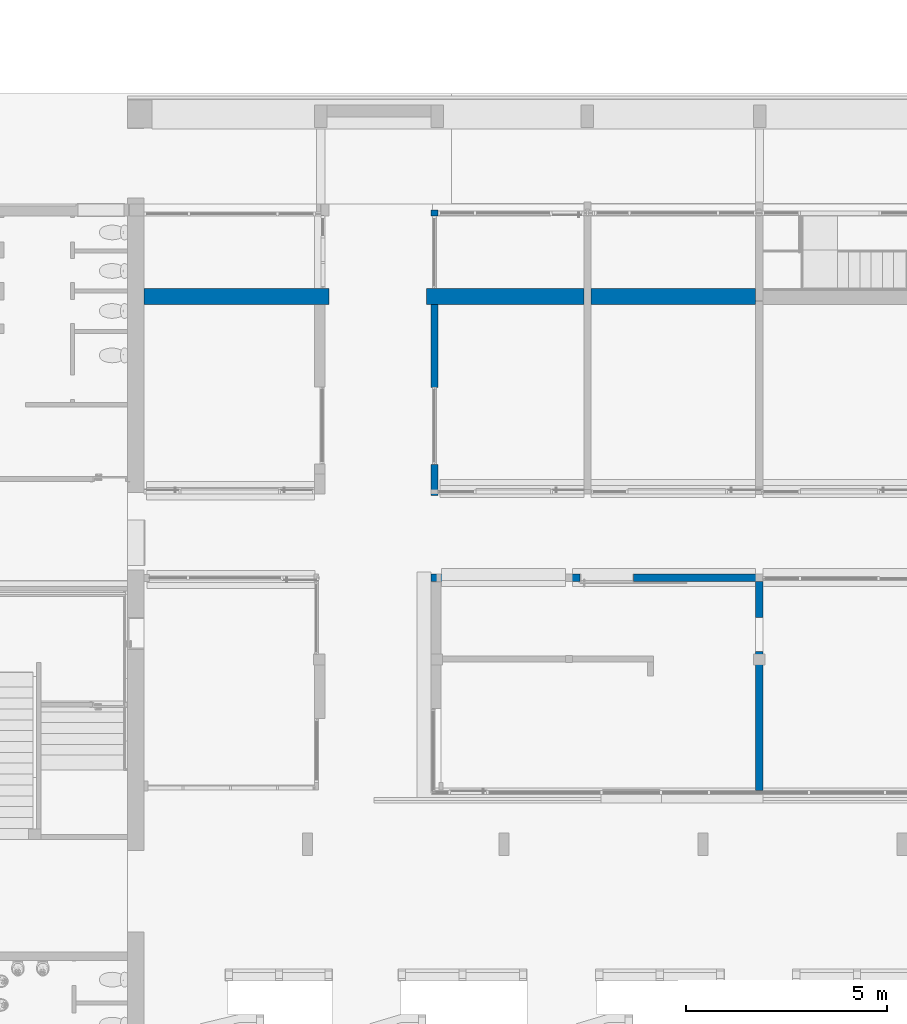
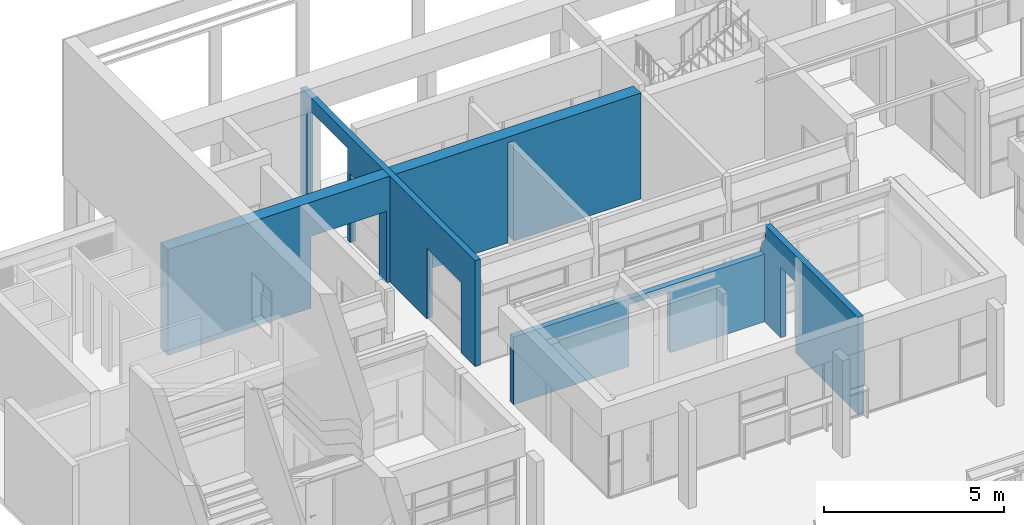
# One storey, part 86 of 117: 4 walls, 8 openings.
"""IFC4 building model written with IfcOpenShell, lengths in metres."""

from ifc_helpers import new_model, entity, si_unit, converted_unit, derived_unit, direction, frame, origin, place, context, subcontext, project, spatial, indexed_curve, outline, extrude, polygons, material, type_object, element, save


model = new_model("IFC4")

# Units and contexts
model_context = context("Model", 3, precision=1e-05, world=origin(), true_north=direction((6.123031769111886e-17, 1.0)))
body_context = subcontext(model_context, "Body", "Model", "MODEL_VIEW")
ifc_project = project(units=[si_unit("LENGTHUNIT", "METRE"), si_unit("AREAUNIT", "SQUARE_METRE"), si_unit("VOLUMEUNIT", "CUBIC_METRE"), converted_unit("PLANEANGLEUNIT", "DEGREE", entity("IfcRatioMeasure", 0.017453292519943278), si_unit("PLANEANGLEUNIT", "RADIAN"), dimensions=[0, 0, 0, 0, 0, 0, 0]), si_unit("MASSUNIT", "GRAM", prefix="KILO"), derived_unit("MASSDENSITYUNIT", [(si_unit("MASSUNIT", "GRAM", prefix="KILO"), 1), (si_unit("LENGTHUNIT", "METRE"), -3)]), derived_unit("MOMENTOFINERTIAUNIT", [(si_unit("LENGTHUNIT", "METRE"), 4)]), si_unit("TIMEUNIT", "SECOND"), si_unit("FREQUENCYUNIT", "HERTZ"), si_unit("THERMODYNAMICTEMPERATUREUNIT", "DEGREE_CELSIUS"), derived_unit("THERMALTRANSMITTANCEUNIT", [(si_unit("MASSUNIT", "GRAM", prefix="KILO"), 1), (si_unit("THERMODYNAMICTEMPERATUREUNIT", "KELVIN"), -1), (si_unit("TIMEUNIT", "SECOND"), -3)]), derived_unit("VOLUMETRICFLOWRATEUNIT", [(si_unit("LENGTHUNIT", "METRE"), 3), (si_unit("TIMEUNIT", "SECOND"), -1)]), derived_unit("MASSFLOWRATEUNIT", [(si_unit("MASSUNIT", "GRAM", prefix="KILO"), 1), (si_unit("TIMEUNIT", "SECOND"), -1)]), derived_unit("ROTATIONALFREQUENCYUNIT", [(si_unit("TIMEUNIT", "SECOND"), -1)]), si_unit("ELECTRICCURRENTUNIT", "AMPERE"), si_unit("ELECTRICVOLTAGEUNIT", "VOLT"), si_unit("POWERUNIT", "WATT"), si_unit("FORCEUNIT", "NEWTON", prefix="KILO"), si_unit("ILLUMINANCEUNIT", "LUX"), si_unit("LUMINOUSFLUXUNIT", "LUMEN"), si_unit("LUMINOUSINTENSITYUNIT", "CANDELA"), derived_unit("USERDEFINED", [(si_unit("MASSUNIT", "GRAM", prefix="KILO"), -1), (si_unit("LENGTHUNIT", "METRE"), -2), (si_unit("TIMEUNIT", "SECOND"), 3), (si_unit("LUMINOUSFLUXUNIT", "LUMEN"), 1)]), derived_unit("SOUNDPOWERUNIT", [(si_unit("MASSUNIT", "GRAM", prefix="KILO"), 1), (si_unit("LENGTHUNIT", "METRE"), 2), (si_unit("TIMEUNIT", "SECOND"), -3)]), derived_unit("SOUNDPRESSUREUNIT", [(si_unit("MASSUNIT", "GRAM", prefix="KILO"), 1), (si_unit("LENGTHUNIT", "METRE"), -1), (si_unit("TIMEUNIT", "SECOND"), -2)]), derived_unit("LINEARVELOCITYUNIT", [(si_unit("LENGTHUNIT", "METRE"), 1), (si_unit("TIMEUNIT", "SECOND"), -1)]), si_unit("PRESSUREUNIT", "PASCAL"), derived_unit("USERDEFINED", [(si_unit("LENGTHUNIT", "METRE"), -2), (si_unit("MASSUNIT", "GRAM", prefix="KILO"), 1), (si_unit("TIMEUNIT", "SECOND"), -2)]), derived_unit("LINEARFORCEUNIT", [(si_unit("MASSUNIT", "GRAM", prefix="KILO"), 1), (si_unit("LENGTHUNIT", "METRE"), 1), (si_unit("TIMEUNIT", "SECOND"), -2), (si_unit("LENGTHUNIT", "METRE"), -1)]), derived_unit("PLANARFORCEUNIT", [(si_unit("MASSUNIT", "GRAM", prefix="KILO"), 1), (si_unit("LENGTHUNIT", "METRE"), 1), (si_unit("TIMEUNIT", "SECOND"), -2), (si_unit("LENGTHUNIT", "METRE"), -2)])], contexts=[model_context])

# Site, building, storey
site_placement = place(None, origin())
site = spatial("IfcSite", under=ifc_project, at=site_placement, Name="Superficie", CompositionType="ELEMENT")
building_placement = place(site_placement, origin())
building = spatial("IfcBuilding", under=site, at=building_placement, CompositionType="ELEMENT")
storey_placement = place(building_placement, origin())
storey = spatial("IfcBuildingStorey", under=building, at=storey_placement, Name="Nivel 0", CompositionType="ELEMENT", Elevation=0.0)

# Wall
ifc_material = material(Name="Muro por defecto", Category="Varios")
wall_type_1 = type_object("IfcWallType", Name="Muro básico:Por defecto - 40 cm 2", PredefinedType="STANDARD")
wall_1_placement = place(storey_placement, frame((-22.64320098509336, 10.5708292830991, 0.0)))
element("IfcWall", 1, at=wall_1_placement, inside=storey, type_object=wall_type_1, material=ifc_material, Name="Muro básico:Por defecto - 40 cm 2", ObjectType="Muro básico:Por defecto - 40 cm 2", PredefinedType="NOTDEFINED", context=body_context, shape_type="Tessellation", body=[
    polygons([(15.225000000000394, -0.2, 3.5999999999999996), (6.998144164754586e-16, -0.2, 3.5999999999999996), (6.998144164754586e-16, -0.2, 0.0), (4.6057970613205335, -0.2, 0.0), (4.6057970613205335, -0.2, 2.44), (7.025797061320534, -0.20000000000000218, 2.44), (7.025797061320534, -0.20000000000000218, 0.0), (7.139999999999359, -0.2, 0.0), (7.319999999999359, -0.2, 0.0), (10.940000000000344, -0.20000000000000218, 0.0), (10.940000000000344, -0.20000000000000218, 3.4), (11.120000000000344, -0.2, 3.4), (11.120000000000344, -0.2, 0.0), (15.210000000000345, -0.2, 0.0), (15.210000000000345, -0.2, 3.5853943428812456), (15.225000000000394, -0.2, 3.5853943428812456), (-6.097022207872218e-16, 0.2, 0.0), (-6.097022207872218e-16, 0.2, 3.5999999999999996), (15.210000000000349, 0.2, 3.5999999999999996), (15.210000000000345, 0.2, 0.0), (11.120000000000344, 0.2, 0.0), (11.120000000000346, 0.2, 3.4), (10.940000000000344, 0.19999999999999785, 3.4), (10.940000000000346, 0.19999999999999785, 0.0), (7.025797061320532, 0.19999999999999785, 0.0), (7.025797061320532, 0.19999999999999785, 2.44), (4.605797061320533, 0.2, 2.44), (4.605797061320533, 0.2, 0.0), (15.225000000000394, -0.12787037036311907, 3.5853943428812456), (15.225000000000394, -0.12787037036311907, 0.0), (15.225000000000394, -0.10287037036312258, 0.0), (15.225000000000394, -0.10287037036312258, 3.6), (15.210000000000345, -0.10287037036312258, 3.5999999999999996), (15.210000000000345, -0.12787037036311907, 0.0), (15.210000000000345, -0.12787037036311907, 3.5853943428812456), (15.210000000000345, -0.10287037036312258, 0.0)], [[[1, 2, 3, 4, 5, 6, 7, 8, 9, 10, 11, 12, 13, 14, 15, 16]], [[17, 18, 19, 20, 21, 22, 23, 24, 25, 26, 27, 28]], [[3, 17, 28, 4]], [[1, 16, 29, 30, 31, 32]], [[2, 1, 32, 33, 19, 18]], [[3, 2, 18, 17]], [[5, 27, 26, 6]], [[27, 5, 4, 28]], [[6, 26, 25, 7]], [[15, 14, 34, 35]], [[12, 22, 21, 13]], [[23, 11, 10, 24]], [[22, 12, 11, 23]], [[7, 25, 24, 10, 9, 8]], [[35, 34, 30, 29]], [[33, 36, 20, 19]], [[36, 33, 32, 31]], [[15, 35, 29, 16]], [[34, 14, 13, 21, 20, 36, 31, 30]]], closed=True),
])

# Wall, openings
wall_type_2 = type_object("IfcWallType", Name="Muro básico:Por defecto - 18 cm 2", PredefinedType="STANDARD")
wall_2_placement = place(storey_placement, frame((-7.343200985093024, -1.714170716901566, 0.0), z_axis=(0.0, 0.0, 1.0), x_axis=(0.0, 1.0, 0.0)))
wall_2 = element("IfcWall", 2, at=wall_2_placement, inside=storey, type_object=wall_type_2, material=ifc_material, Name="Muro básico:Por defecto - 18 cm 2", ObjectType="Muro básico:Por defecto - 18 cm 2", PredefinedType="NOTDEFINED", context=body_context, shape_type="Tessellation", body=[
    polygons([(5.2000000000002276, -0.0900000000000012, 0.0), (5.2000000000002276, -0.0900000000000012, 2.150000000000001), (5.380000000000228, -0.09000000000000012, 2.150000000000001), (5.4401154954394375, -0.0900000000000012, 2.150000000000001), (5.4401154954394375, -0.0900000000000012, 2.44), (5.171199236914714, -0.0900000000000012, 2.8365220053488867), (5.171199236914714, -0.0900000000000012, 3.3), (2.707167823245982e-16, -0.0900000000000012, 3.3), (0.0, -0.0900000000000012, 0.0), (3.4612154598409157, -0.0900000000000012, 0.0), (3.4612154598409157, -0.0900000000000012, 2.4), (4.3012154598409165, -0.0900000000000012, 2.4), (4.3012154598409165, -0.0900000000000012, 0.0), (5.2000000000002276, 0.09000000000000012, 2.150000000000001), (5.200000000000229, 0.09000000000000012, 0.0), (4.3012154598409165, 0.09000000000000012, 0.0), (4.3012154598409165, 0.09000000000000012, 2.4), (3.4612154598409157, 0.09000000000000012, 2.4), (3.4612154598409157, 0.09000000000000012, 0.0), (0.0, 0.09000000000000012, 0.0), (2.707167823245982e-16, 0.09000000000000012, 3.3), (5.171199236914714, 0.09000000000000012, 3.3), (5.171199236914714, 0.09000000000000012, 2.8365220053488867), (5.4401154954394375, 0.09000000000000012, 2.44), (5.4401154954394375, 0.09000000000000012, 2.150000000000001), (5.380000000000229, 0.09000000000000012, 2.150000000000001)], [[[1, 2, 3, 4, 5, 6, 7, 8, 9, 10, 11, 12, 13]], [[14, 15, 16, 17, 18, 19, 20, 21, 22, 23, 24, 25, 26]], [[11, 18, 17, 12]], [[18, 11, 10, 19]], [[12, 17, 16, 13]], [[9, 20, 19, 10]], [[8, 7, 22, 21]], [[9, 8, 21, 20]], [[4, 3, 2, 14, 26, 25]], [[5, 4, 25, 24]], [[6, 5, 24, 23]], [[7, 6, 23, 22]], [[2, 1, 15, 14]], [[15, 1, 13, 16]]], closed=True),
])
opening_1_placement = place(wall_2_placement, origin())
element("IfcOpeningElement", 3, at=opening_1_placement, cuts=wall_2, Name="Muro básico:Por defecto - 18 cm 2", PredefinedType="OPENING", context=body_context, shape_type="SweptSolid", body=[
    extrude(outline(indexed_curve([(-1.3798513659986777, -0.4200000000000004), (1.3798513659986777, -0.4200000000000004), (1.3798513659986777, 0.42000000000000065), (-1.3798513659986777, 0.42000000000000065), (-1.3798513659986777, -0.4200000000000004)], self_intersect=False)), frame((3.8812154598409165, -0.09000000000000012, 1.0201486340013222), z_axis=(0.0, 1.0, 0.0), x_axis=(0.0, 0.0, -1.0)), (0.0, 0.0, 1.0), 0.18000000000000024),
])
opening_2_placement = place(wall_2_placement, origin())
element("IfcOpeningElement", 4, at=opening_2_placement, cuts=wall_2, Name="Muro básico:Por defecto - 18 cm 2", PredefinedType="OPENING", context=body_context, shape_type="SweptSolid", body=[
    extrude(outline(indexed_curve([(-0.07505774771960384, -1.0750000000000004), (0.07505774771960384, -1.0750000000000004), (0.07505774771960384, 1.0750000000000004), (-0.07505774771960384, 1.0750000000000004), (-0.07505774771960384, -1.0750000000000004)], self_intersect=False)), frame((5.365057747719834, 0.09000000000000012, 1.0750000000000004), z_axis=(0.0, -1.0, 0.0), x_axis=(1.0, 0.0, 0.0)), (0.0, 0.0, 1.0), 0.18),
])
opening_3_placement = place(wall_2_placement, origin())
element("IfcOpeningElement", 5, at=opening_3_placement, cuts=wall_2, Name="Muro básico:Por defecto - 18 cm 2", PredefinedType="OPENING", context=body_context, shape_type="SweptSolid", body=[
    extrude(outline(indexed_curve([(-0.5291305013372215, -0.13445812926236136), (0.3308694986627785, -0.13445812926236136), (0.3308694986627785, 0.13445812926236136), (-0.13260849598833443, 0.13445812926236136), (-0.5291305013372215, -0.13445812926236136)], self_intersect=False)), frame((5.305657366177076, 0.09000000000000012, 2.9691305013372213), z_axis=(0.0, -1.0, 0.0), x_axis=(0.0, 0.0, 1.0)), (0.0, 0.0, 1.0), 0.18),
])

# Wall, opening
wall_3_placement = place(storey_placement, frame((-7.253200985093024, 3.575829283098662, 0.0), z_axis=(0.0, 0.0, 1.0), x_axis=(-1.0, 0.0, 0.0)))
wall_3 = element("IfcWall", 6, at=wall_3_placement, inside=storey, type_object=wall_type_2, material=ifc_material, Name="Muro básico:Por defecto - 18 cm 2", ObjectType="Muro básico:Por defecto - 18 cm 2", PredefinedType="NOTDEFINED", context=body_context, shape_type="Tessellation", body=[
    polygons([(8.25, -0.0900000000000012, 0.0), (8.25, -0.0900000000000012, 2.299999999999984), (0.18000000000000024, -0.09000000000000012, 2.299999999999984), (0.18000000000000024, -0.09000000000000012, 2.150000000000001), (-1.0800163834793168e-15, -0.09000000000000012, 2.150000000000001), (-1.0800163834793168e-15, -0.09000000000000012, 0.0), (3.2092029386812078, -0.09000000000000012, 0.0), (3.2092029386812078, -0.09000000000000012, 2.0999999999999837), (4.539202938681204, -0.09000000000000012, 2.0999999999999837), (4.539202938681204, -0.09000000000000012, 0.0), (8.249999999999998, 0.09000000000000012, 2.299999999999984), (8.249999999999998, 0.09000000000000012, 0.0), (4.539202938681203, 0.08999999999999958, 0.0), (4.539202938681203, 0.09000000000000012, 2.0999999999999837), (3.2092029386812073, 0.09000000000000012, 2.0999999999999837), (3.2092029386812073, 0.08999999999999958, 0.0), (0.17999999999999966, 0.09000000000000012, 0.0), (-1.665038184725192e-15, 0.09000000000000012, 0.0), (-1.665038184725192e-15, 0.09000000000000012, 2.150000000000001), (0.17999999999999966, 0.09000000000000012, 2.150000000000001), (0.17999999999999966, 0.09000000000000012, 2.299999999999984)], [[[1, 2, 3, 4, 5, 6, 7, 8, 9, 10]], [[11, 12, 13, 14, 15, 16, 17, 18, 19, 20, 21]], [[6, 18, 17, 16, 7]], [[1, 12, 11, 2]], [[9, 14, 13, 10]], [[14, 9, 8, 15]], [[15, 8, 7, 16]], [[3, 2, 11, 21]], [[20, 19, 5, 4]], [[18, 6, 5, 19]], [[3, 21, 20, 4]], [[12, 1, 10, 13]]], closed=True),
])
opening_4_placement = place(wall_3_placement, frame((3.2092029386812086, -0.09000000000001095, 0.0)))
element("IfcOpeningElement", 7, at=opening_4_placement, cuts=wall_3, Name="Puerta corredera simple con guía deslizante:1330 x 2100mm 2:1", PredefinedType="OPENING", context=body_context, shape_type="SweptSolid", body=[
    extrude(outline(indexed_curve([(0.0, 1.3299999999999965), (0.0, 0.0), (2.0999999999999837, 0.0), (2.0999999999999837, 1.3299999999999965), (0.0, 1.3299999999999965)], self_intersect=False)), frame((0.0, 0.0, 0.0), z_axis=(0.0, 1.0, 0.0), x_axis=(0.0, 0.0, 1.0)), (0.0, 0.0, 1.0), 0.18),
])

# Wall, openings
wall_4_placement = place(storey_placement, frame((-15.413200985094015, 5.625829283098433, 0.0), z_axis=(0.0, 0.0, 1.0), x_axis=(0.0, 1.0, 0.0)))
wall_4 = element("IfcWall", 8, at=wall_4_placement, inside=storey, type_object=wall_type_2, material=ifc_material, Name="Muro básico:Por defecto - 18 cm 2", ObjectType="Muro básico:Por defecto - 18 cm 2", PredefinedType="NOTDEFINED", context=body_context, shape_type="Tessellation", body=[
    polygons([(9.70962962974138, -0.09000000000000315, 0.0), (9.70962962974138, -0.09000000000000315, 3.5999999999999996), (5.1050000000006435, -0.09000000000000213, 3.6), (4.745000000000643, -0.09000000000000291, 3.5999999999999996), (0.0, -0.0900000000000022, 3.5999999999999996), (0.0, -0.0900000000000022, 0.0), (0.7700000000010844, -0.09000000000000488, 0.0), (0.7700000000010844, -0.09000000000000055, 2.3999999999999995), (2.6872338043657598, -0.09000000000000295, 2.3999999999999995), (2.6872338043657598, -0.09000000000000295, 0.0), (4.745000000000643, -0.09000000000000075, 0.0), (4.745000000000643, -0.09000000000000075, 2.3337706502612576), (6.9526188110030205, -0.09000000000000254, 2.3337706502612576), (6.9526188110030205, -0.09000000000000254, 0.0), (7.245000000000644, -0.09000000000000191, 0.0), (7.245000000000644, -0.09000000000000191, 3.12), (9.339629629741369, -0.09000000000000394, 3.12), (9.339629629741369, -0.09000000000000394, 0.0), (9.709629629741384, 0.08999999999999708, 3.5999999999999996), (9.709629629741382, 0.08999999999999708, 3.119999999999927), (9.70962962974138, 0.08999999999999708, 0.0), (9.409629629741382, 0.08999999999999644, 0.0), (9.339629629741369, 0.08999999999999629, 0.0), (9.339629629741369, 0.08999999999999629, 3.12), (7.245000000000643, 0.08999999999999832, 3.12), (7.245000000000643, 0.08999999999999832, 0.0), (6.95261881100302, 0.08999999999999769, 0.0), (6.95261881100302, 0.08999999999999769, 2.3337706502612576), (4.745000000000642, 0.08999999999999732, 2.3337706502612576), (4.745000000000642, 0.08999999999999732, 0.0), (2.687233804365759, 0.08999999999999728, 0.0), (2.687233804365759, 0.08999999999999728, 2.3999999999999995), (0.7700000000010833, 0.08999999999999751, 2.3999999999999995), (0.7700000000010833, 0.08999999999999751, 0.0), (-1.0828671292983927e-15, 0.0900000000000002, 0.0), (-1.0828671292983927e-15, 0.0900000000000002, 3.5999999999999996), (4.745000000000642, 0.08999999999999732, 3.5999999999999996), (5.105000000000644, 0.0899999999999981, 3.5999999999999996)], [[[1, 2, 3, 4, 5, 6, 7, 8, 9, 10, 11, 12, 13, 14, 15, 16, 17, 18]], [[19, 20, 21, 22, 23, 24, 25, 26, 27, 28, 29, 30, 31, 32, 33, 34, 35, 36, 37, 38]], [[6, 35, 34, 7]], [[5, 4, 3, 2, 19, 38, 37, 36]], [[6, 5, 36, 35]], [[8, 33, 32, 9]], [[33, 8, 7, 34]], [[9, 32, 31, 10]], [[16, 25, 24, 17]], [[17, 24, 23, 18]], [[25, 16, 15, 26]], [[12, 29, 28, 13]], [[13, 28, 27, 14]], [[29, 12, 11, 30]], [[2, 1, 21, 20, 19]], [[10, 31, 30, 11]], [[21, 1, 18, 23, 22]], [[26, 15, 14, 27]]], closed=True),
])
opening_5_placement = place(wall_4_placement, origin())
element("IfcOpeningElement", 9, at=opening_5_placement, cuts=wall_4, Name="Muro básico:Por defecto - 18 cm 2", PredefinedType="OPENING", context=body_context, shape_type="SweptSolid", body=[
    extrude(outline(indexed_curve([(-1.2299999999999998, -0.9586169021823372), (1.2299999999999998, -0.9586169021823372), (1.2299999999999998, 0.9586169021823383), (-1.2299999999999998, 0.9586169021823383), (-1.2299999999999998, -0.9586169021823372)], self_intersect=False)), frame((1.7286169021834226, -0.09000000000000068, 1.17), z_axis=(0.0, 1.0, 0.0), x_axis=(0.0, 0.0, -1.0)), (0.0, 0.0, 1.0), 0.17999999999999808),
])
opening_6_placement = place(wall_4_placement, origin())
element("IfcOpeningElement", 10, at=opening_6_placement, cuts=wall_4, Name="Muro básico:Por defecto - 18 cm 2", PredefinedType="OPENING", context=body_context, shape_type="SweptSolid", body=[
    extrude(outline(indexed_curve([(-1.56, -1.1223148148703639), (1.56, -1.1223148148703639), (1.56, 1.1223148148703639), (-1.56, 1.1223148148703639), (-1.56, -1.1223148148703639)], self_intersect=False)), frame((8.217314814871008, -0.090000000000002, 1.56), z_axis=(0.0, 1.0, 0.0), x_axis=(0.0, 0.0, -1.0)), (0.0, 0.0, 1.0), 0.17999999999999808),
])
opening_7_placement = place(wall_4_placement, origin())
element("IfcOpeningElement", 11, at=opening_7_placement, cuts=wall_4, Name="Muro básico:Por defecto - 18 cm 2", PredefinedType="OPENING", context=body_context, shape_type="SweptSolid", body=[
    extrude(outline(indexed_curve([(-1.2111757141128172, -0.11116236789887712), (1.2111757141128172, -0.11116236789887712), (1.2111757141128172, 0.11116236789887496), (-1.2111757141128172, 0.11116236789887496), (-1.2111757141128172, -0.11116236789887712)], self_intersect=False)), frame((7.400791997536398, -0.09000000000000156, 1.1888242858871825), z_axis=(0.0, 1.0, 0.0), x_axis=(0.0, 0.0, -1.0)), (0.0, 0.0, 1.0), 0.17999999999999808),
])
opening_8_placement = place(wall_4_placement, origin())
element("IfcOpeningElement", 12, at=opening_8_placement, cuts=wall_4, Name="Muro básico:Por defecto - 18 cm 2", PredefinedType="OPENING", context=body_context, shape_type="SweptSolid", body=[
    extrude(outline(indexed_curve([(-1.1668853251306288, -1.0038094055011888), (1.1668853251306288, -1.0038094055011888), (1.1668853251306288, 1.0038094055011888), (-1.1668853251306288, 1.0038094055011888), (-1.1668853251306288, -1.0038094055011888)], self_intersect=False)), frame((5.948809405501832, -0.09000000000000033, 1.1668853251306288), z_axis=(0.0, 1.0, 0.0), x_axis=(0.0, 0.0, -1.0)), (0.0, 0.0, 1.0), 0.17999999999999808),
])

save(model, "model.ifc")
